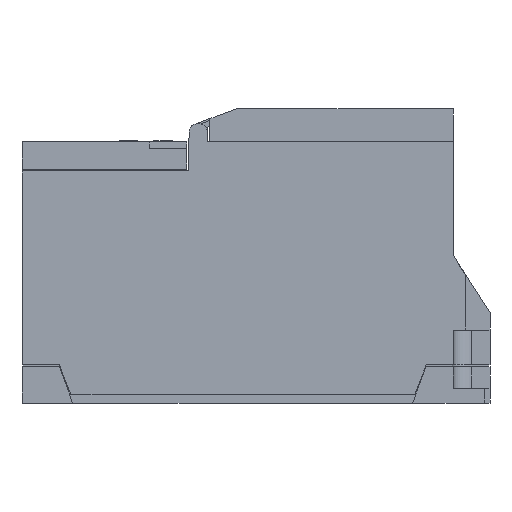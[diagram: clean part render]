
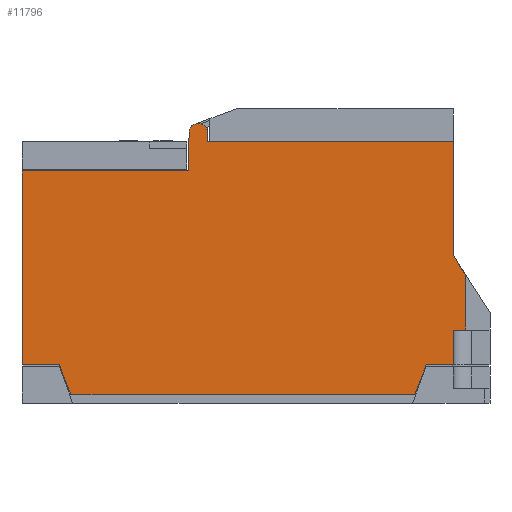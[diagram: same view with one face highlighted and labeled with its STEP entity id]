
A CAD part, left-side view. The second image highlights one B-rep face of the part: STEP entity #11796.
In plain terms, the highlighted planar face has unit normal (-1, 0, 0).
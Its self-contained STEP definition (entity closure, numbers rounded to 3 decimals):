
#1032=DIRECTION('',(0.,-0.362,0.932));
#1033=VECTOR('',#1032,8.796);
#1034=CARTESIAN_POINT('',(-34.,20.589,-7.7));
#1035=LINE('',#1034,#1033);
#1048=DIRECTION('',(0.,-1.,0.));
#1049=VECTOR('',#1048,10.206);
#1050=CARTESIAN_POINT('',(-34.,128.,0.5));
#1051=LINE('',#1050,#1049);
#1052=DIRECTION('',(0.,0.,1.));
#1053=VECTOR('',#1052,53.);
#1054=CARTESIAN_POINT('',(-34.,128.,0.5));
#1055=LINE('',#1054,#1053);
#1056=DIRECTION('',(0.,-0.017,1.));
#1057=VECTOR('',#1056,10.545);
#1058=CARTESIAN_POINT('',(-34.,82.484,53.5));
#1059=LINE('',#1058,#1057);
#1060=CARTESIAN_POINT('',(-34.,79.8,64.));
#1061=DIRECTION('',(1.,0.,0.));
#1062=DIRECTION('',(0.,1.,0.017));
#1063=AXIS2_PLACEMENT_3D('',#1060,#1061,#1062);
#1065=DIRECTION('',(0.,-0.017,-1.));
#1066=VECTOR('',#1065,2.544);
#1067=CARTESIAN_POINT('',(-34.,77.3,64.044));
#1068=LINE('',#1067,#1066);
#1069=DIRECTION('',(0.,0.,-1.));
#1070=VECTOR('',#1069,31.224);
#1071=CARTESIAN_POINT('',(-34.,10.,61.5));
#1072=LINE('',#1071,#1070);
#1073=DIRECTION('',(0.,-0.541,-0.841));
#1074=VECTOR('',#1073,6.281);
#1075=CARTESIAN_POINT('',(-34.,10.,30.276));
#1076=LINE('',#1075,#1074);
#1077=DIRECTION('',(0.,1.,0.));
#1078=VECTOR('',#1077,7.406);
#1079=CARTESIAN_POINT('',(-34.,10.,0.5));
#1080=LINE('',#1079,#1078);
#1097=DIRECTION('',(0.,-0.362,-0.932));
#1098=VECTOR('',#1097,8.796);
#1099=CARTESIAN_POINT('',(-34.,117.794,0.5));
#1100=LINE('',#1099,#1098);
#1256=DIRECTION('',(0.,-1.,0.));
#1257=VECTOR('',#1256,45.516);
#1258=CARTESIAN_POINT('',(-34.,128.,53.5));
#1259=LINE('',#1258,#1257);
#2842=DIRECTION('',(0.,0.,1.));
#2843=VECTOR('',#2842,9.5);
#2844=CARTESIAN_POINT('',(-34.,10.,0.5));
#2845=LINE('',#2844,#2843);
#2870=DIRECTION('',(0.,-1.,0.));
#2871=VECTOR('',#2870,67.256);
#2872=CARTESIAN_POINT('',(-34.,77.256,61.5));
#2873=LINE('',#2872,#2871);
#3980=DIRECTION('',(0.,-1.,0.));
#3981=VECTOR('',#3980,3.4);
#3982=CARTESIAN_POINT('',(-34.,10.,10.));
#3983=LINE('',#3982,#3981);
#3996=DIRECTION('',(0.,0.,-1.));
#3997=VECTOR('',#3996,14.994);
#3998=CARTESIAN_POINT('',(-34.,6.6,24.994));
#3999=LINE('',#3998,#3997);
#4048=DIRECTION('',(0.,-1.,0.));
#4049=VECTOR('',#4048,94.021);
#4050=CARTESIAN_POINT('',(-34.,114.611,-7.7));
#4051=LINE('',#4050,#4049);
#8217=CARTESIAN_POINT('',(-34.,114.611,-7.7));
#8218=CARTESIAN_POINT('',(-34.,20.589,-7.7));
#8219=VERTEX_POINT('',#8217);
#8220=VERTEX_POINT('',#8218);
#8303=CARTESIAN_POINT('',(-34.,128.,53.5));
#8304=VERTEX_POINT('',#8303);
#8307=CARTESIAN_POINT('',(-34.,10.,61.5));
#8309=VERTEX_POINT('',#8307);
#8315=CARTESIAN_POINT('',(-34.,82.3,64.044));
#8316=CARTESIAN_POINT('',(-34.,77.3,64.044));
#8317=VERTEX_POINT('',#8315);
#8318=VERTEX_POINT('',#8316);
#8323=CARTESIAN_POINT('',(-34.,77.256,61.5));
#8324=VERTEX_POINT('',#8323);
#8591=CARTESIAN_POINT('',(-34.,82.484,53.5));
#8592=VERTEX_POINT('',#8591);
#8713=CARTESIAN_POINT('',(-34.,6.6,10.));
#8715=VERTEX_POINT('',#8713);
#8721=CARTESIAN_POINT('',(-34.,10.,10.));
#8722=VERTEX_POINT('',#8721);
#8725=CARTESIAN_POINT('',(-34.,10.,30.276));
#8726=CARTESIAN_POINT('',(-34.,6.6,24.994));
#8727=VERTEX_POINT('',#8725);
#8728=VERTEX_POINT('',#8726);
#9896=CARTESIAN_POINT('',(-34.,128.,0.5));
#9898=VERTEX_POINT('',#9896);
#9983=CARTESIAN_POINT('',(-34.,117.794,0.5));
#9985=VERTEX_POINT('',#9983);
#9988=CARTESIAN_POINT('',(-34.,17.406,0.5));
#9990=VERTEX_POINT('',#9988);
#9995=CARTESIAN_POINT('',(-34.,10.,0.5));
#9996=VERTEX_POINT('',#9995);
#11759=CARTESIAN_POINT('',(-34.,128.,-7.7));
#11760=DIRECTION('',(-1.,0.,0.));
#11761=DIRECTION('',(0.,-1.,0.));
#11762=AXIS2_PLACEMENT_3D('',#11759,#11760,#11761);
#11763=PLANE('',#11762);
#11765=ORIENTED_EDGE('',*,*,#11764,.F.);
#11767=ORIENTED_EDGE('',*,*,#11766,.F.);
#11769=ORIENTED_EDGE('',*,*,#11768,.T.);
#11771=ORIENTED_EDGE('',*,*,#11770,.T.);
#11773=ORIENTED_EDGE('',*,*,#11772,.T.);
#11775=ORIENTED_EDGE('',*,*,#11774,.T.);
#11777=ORIENTED_EDGE('',*,*,#11776,.T.);
#11779=ORIENTED_EDGE('',*,*,#11778,.T.);
#11781=ORIENTED_EDGE('',*,*,#11780,.T.);
#11783=ORIENTED_EDGE('',*,*,#11782,.T.);
#11785=ORIENTED_EDGE('',*,*,#11784,.T.);
#11787=ORIENTED_EDGE('',*,*,#11786,.F.);
#11789=ORIENTED_EDGE('',*,*,#11788,.F.);
#11790=ORIENTED_EDGE('',*,*,#11703,.T.);
#11791=ORIENTED_EDGE('',*,*,#11677,.F.);
#11793=ORIENTED_EDGE('',*,*,#11792,.F.);
#11794=EDGE_LOOP('',(#11765,#11767,#11769,#11771,#11773,#11775,#11777,#11779,
#11781,#11783,#11785,#11787,#11789,#11790,#11791,#11793));
#11795=FACE_OUTER_BOUND('',#11794,.F.);
#11796=ADVANCED_FACE('',(#11795),#11763,.T.);
#1064=CIRCLE('',#1063,2.5);
#11677=EDGE_CURVE('',#8220,#9990,#1035,.T.);
#11703=EDGE_CURVE('',#9996,#9990,#1080,.T.);
#11764=EDGE_CURVE('',#9985,#8219,#1100,.T.);
#11766=EDGE_CURVE('',#9898,#9985,#1051,.T.);
#11768=EDGE_CURVE('',#9898,#8304,#1055,.T.);
#11770=EDGE_CURVE('',#8304,#8592,#1259,.T.);
#11772=EDGE_CURVE('',#8592,#8317,#1059,.T.);
#11774=EDGE_CURVE('',#8317,#8318,#1064,.T.);
#11776=EDGE_CURVE('',#8318,#8324,#1068,.T.);
#11778=EDGE_CURVE('',#8324,#8309,#2873,.T.);
#11780=EDGE_CURVE('',#8309,#8727,#1072,.T.);
#11782=EDGE_CURVE('',#8727,#8728,#1076,.T.);
#11784=EDGE_CURVE('',#8728,#8715,#3999,.T.);
#11786=EDGE_CURVE('',#8722,#8715,#3983,.T.);
#11788=EDGE_CURVE('',#9996,#8722,#2845,.T.);
#11792=EDGE_CURVE('',#8219,#8220,#4051,.T.);
